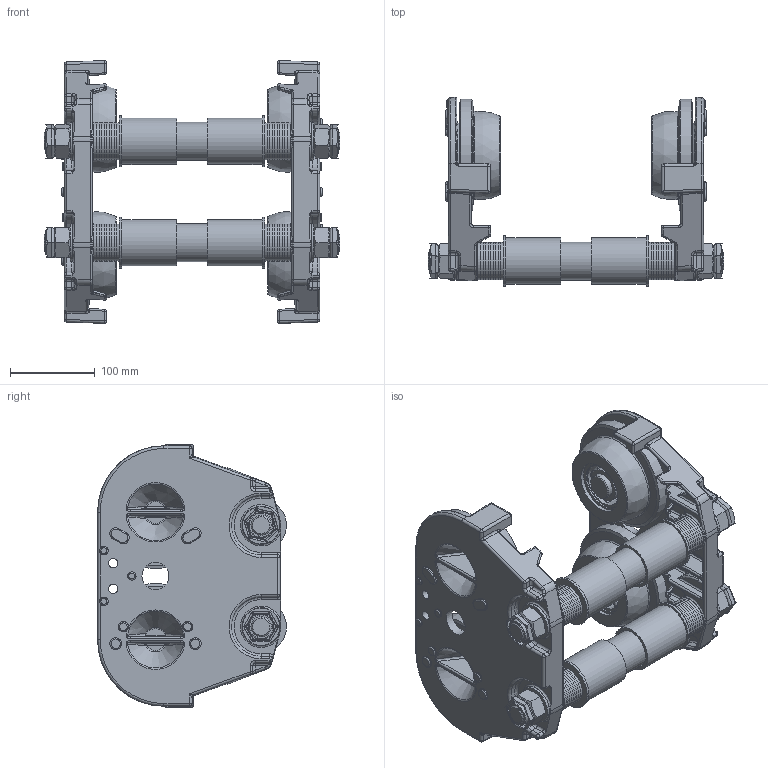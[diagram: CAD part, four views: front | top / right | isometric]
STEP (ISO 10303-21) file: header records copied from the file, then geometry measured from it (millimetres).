
FILE_DESCRIPTION((''),'2;1');
FILE_NAME('E:\3-D light\9248_9269_M.stp','2009-02-03T11:07:00',('gispen'),(''),'Autodesk Inventor 10','Autodesk Inventor 10','');
FILE_SCHEMA(('AUTOMOTIVE_DESIGN { 1 0 10303 214 1 1 1 1 }'));
Length unit declared in the file: millimetre
Products named in the file (9): EHF300 kompl; Tragbolzen Nr; 9248_1004_M1; 9248_1010_M; 9248_1008_M; DIN 125-1  A A 25; 9031_1577; 28 674 M24 x 2; 9248_9267_M
Assembly tree (35 placements, depth 3):
  EHF300 kompl
    Tragbolzen Nr  x2
      9248_1004_M1
      9248_1010_M
      9248_1008_M
      DIN 125-1  A A 25
      9031_1577
      28 674 M24 x 2
    9248_9267_M  x2
Bounding box: 350 x 223.53 x 310.78 mm (x, y, z)
Volume: 4078419.5 mm3; surface area: 900762.8 mm2
Topology: 66 solids, 66 shells, 2290 faces, 5210 edges, 3028 vertices
Faces by surface type: cylinder 812, bspline 688, plane 588, torus 88, sphere 58, cone 56
Full cylindrical faces by diameter (mm): 2.5 x4, 10 x6, 12 x4, 14 x4, 24 x4, 24.5 x44, 25 x4, 28 x4, 30 x2, 40.432 x2, 44 x44, 45 x2, 48 x4, 51.568 x2, 55 x4, 60 x4, 62 x8, 65 x4, 133 x2
Entity records: 74821 total; most frequent: CARTESIAN_POINT 54305, DIRECTION 4232, ORIENTED_EDGE 4088, EDGE_CURVE 2044, AXIS2_PLACEMENT_3D 1780, VERTEX_POINT 1244, EDGE_LOOP 1146, FACE_OUTER_BOUND 952
